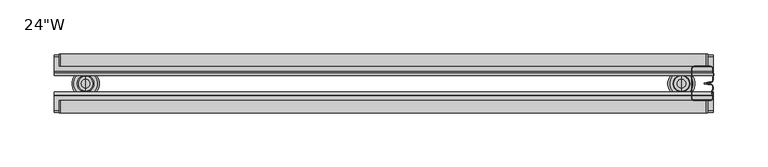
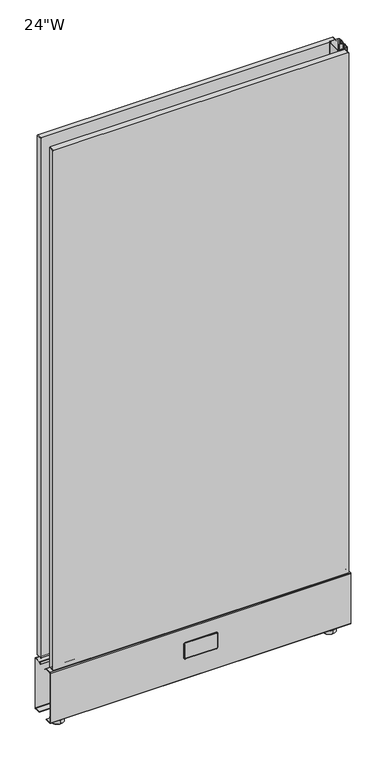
"""IFC4 building model written with IfcOpenShell, lengths in millimetres: furniture geometry."""

from ifc_helpers import new_model, si_unit, point, frame, frame_2d, origin, place, context, project, spatial, polyline, circle_curve, trimmed, segment, composite_curve, outline, extrude, source, transform, mapped, element, save
from ifc_brep_helpers import plane_surface, cylinder_surface, revolved_surface, advanced_brep


def furniture_87b25547(model_context):
    return source(origin(), model_context, "Body", "SolidModel", [
        extrude(outline(composite_curve([segment(trimmed(circle_curve(frame_2d((133.8403843, 603.5740343)), 1.2634657), [point((132.5769186, 603.5740343))], [point((133.8403843, 604.8375))], False, "CARTESIAN"), True, "CONTINUOUS"), segment(polyline([(133.8403843, 604.8375), (1245.2602242, 604.8375)]), True, "CONTINUOUS"), segment(trimmed(circle_curve(frame_2d((1245.2602242, 602.9941949)), 1.8433051), [point((1245.2602242, 604.8375))], [point((1247.1035294, 602.9941949))], False, "CARTESIAN"), True, "CONTINUOUS"), segment(polyline([(1247.1035294, 602.9941949), (1247.1035294, 6.3370556)]), True, "CONTINUOUS"), segment(trimmed(circle_curve(frame_2d((1245.4908737, 6.3370556)), 1.6126556), [point((1247.1035294, 6.3370556))], [point((1245.4908737, 4.7243999))], False, "CARTESIAN"), True, "CONTINUOUS"), segment(polyline([(1245.4908737, 4.7243999), (134.0795596, 4.7243999)]), True, "CONTINUOUS"), segment(trimmed(circle_curve(frame_2d((134.0795596, 6.227041)), 1.5026411), [point((134.0795596, 4.7243999))], [point((132.5769186, 6.227041))], False, "CARTESIAN"), True, "CONTINUOUS"), segment(polyline([(132.5769186, 6.227041), (132.5769186, 603.5740343)]), True, "CONTINUOUS")], self_intersect=False)), frame((0.0, 44.4550341, 0.0), z_axis=(0.0, 1.0, 0.0), x_axis=(0.0, 0.0, 1.0)), (0.0, 0.0, 1.0), 11.5108241),
        extrude(outline(composite_curve([segment(trimmed(circle_curve(frame_2d((133.8403843, 603.5740343)), 1.2634657), [point((132.5769186, 603.5740343))], [point((133.8403843, 604.8375))], False, "CARTESIAN"), True, "CONTINUOUS"), segment(polyline([(133.8403843, 604.8375), (1245.2602242, 604.8375)]), True, "CONTINUOUS"), segment(trimmed(circle_curve(frame_2d((1245.2602242, 602.9941949)), 1.8433051), [point((1245.2602242, 604.8375))], [point((1247.1035294, 602.9941949))], False, "CARTESIAN"), True, "CONTINUOUS"), segment(polyline([(1247.1035294, 602.9941949), (1247.1035294, 6.3370556)]), True, "CONTINUOUS"), segment(trimmed(circle_curve(frame_2d((1245.4908737, 6.3370556)), 1.6126556), [point((1247.1035294, 6.3370556))], [point((1245.4908737, 4.7243999))], False, "CARTESIAN"), True, "CONTINUOUS"), segment(polyline([(1245.4908737, 4.7243999), (134.0795596, 4.7243999)]), True, "CONTINUOUS"), segment(trimmed(circle_curve(frame_2d((134.0795596, 6.227041)), 1.5026411), [point((134.0795596, 4.7243999))], [point((132.5769186, 6.227041))], False, "CARTESIAN"), True, "CONTINUOUS"), segment(polyline([(132.5769186, 6.227041), (132.5769186, 603.5740343)]), True, "CONTINUOUS")], self_intersect=False)), frame((0.0, 1.3335, 0.0), z_axis=(0.0, 1.0, 0.0), x_axis=(0.0, 0.0, 1.0)), (0.0, 0.0, 1.0), 11.5108241),
        extrude(outline(composite_curve([segment(trimmed(circle_curve(frame_2d((94.8528373, 273.6849691)), 3.175), [point((98.0278373, 273.6849691))], [point((94.8528373, 270.5099691))], False, "CARTESIAN"), True, "CONTINUOUS"), segment(polyline([(94.8528373, 270.5099691), (66.2778343, 270.5099691)]), True, "CONTINUOUS"), segment(trimmed(circle_curve(frame_2d((66.2778343, 273.6849691)), 3.175), [point((66.2778343, 270.5099691))], [point((63.1028343, 273.6849691))], False, "CARTESIAN"), True, "CONTINUOUS"), segment(polyline([(63.1028343, 273.6849691), (63.1028343, 335.9149945)]), True, "CONTINUOUS"), segment(trimmed(circle_curve(frame_2d((66.2778343, 335.9149945)), 3.175), [point((63.1028343, 335.9149945))], [point((66.2778343, 339.0899945))], False, "CARTESIAN"), True, "CONTINUOUS"), segment(polyline([(66.2778343, 339.0899945), (94.8528373, 339.0899945)]), True, "CONTINUOUS"), segment(trimmed(circle_curve(frame_2d((94.8528373, 335.9149945)), 3.175), [point((94.8528373, 339.0899945))], [point((98.0278373, 335.9149945))], False, "CARTESIAN"), True, "CONTINUOUS"), segment(polyline([(98.0278373, 335.9149945), (98.0278373, 273.6849691)]), True, "CONTINUOUS")], self_intersect=False), holes=[composite_curve([segment(trimmed(circle_curve(frame_2d((66.2778343, 335.9149945)), 2.38125), [point((66.2778343, 338.2962445))], [point((63.8965843, 335.9149945))], True, "CARTESIAN"), True, "CONTINUOUS"), segment(polyline([(63.8965843, 335.9149945), (63.8965843, 273.6849691)]), True, "CONTINUOUS"), segment(trimmed(circle_curve(frame_2d((66.2778343, 273.6849691)), 2.38125), [point((63.8965843, 273.6849691))], [point((66.2778343, 271.3037191))], True, "CARTESIAN"), True, "CONTINUOUS"), segment(polyline([(66.2778343, 271.3037191), (94.8528373, 271.3037191)]), True, "CONTINUOUS"), segment(trimmed(circle_curve(frame_2d((94.8528373, 273.6849691)), 2.38125), [point((94.8528373, 271.3037191))], [point((97.2340873, 273.6849691))], True, "CARTESIAN"), True, "CONTINUOUS"), segment(polyline([(97.2340873, 273.6849691), (97.2340873, 335.9149945)]), True, "CONTINUOUS"), segment(trimmed(circle_curve(frame_2d((94.8528373, 335.9149945)), 2.38125), [point((97.2340873, 335.9149945))], [point((94.8528373, 338.2962445))], True, "CARTESIAN"), True, "CONTINUOUS"), segment(polyline([(94.8528373, 338.2962445), (66.2778343, 338.2962445)]), True, "CONTINUOUS")], self_intersect=False)]), frame((0.0, 55.054502, 0.0), z_axis=(0.0, 1.0, 0.0), x_axis=(0.0, 0.0, 1.0)), (0.0, 0.0, 1.0), 0.79375),
        extrude(outline(composite_curve([segment(trimmed(circle_curve(frame_2d((94.8528373, 335.9149945)), 1.984375), [point((94.8528373, 337.8993695))], [point((96.8372123, 335.9149945))], False, "CARTESIAN"), True, "CONTINUOUS"), segment(polyline([(96.8372123, 335.9149945), (96.8372123, 273.6849691)]), True, "CONTINUOUS"), segment(trimmed(circle_curve(frame_2d((94.8528373, 273.6849691)), 1.984375), [point((96.8372123, 273.6849691))], [point((94.8528373, 271.7005941))], False, "CARTESIAN"), True, "CONTINUOUS"), segment(polyline([(94.8528373, 271.7005941), (66.2778343, 271.7005941)]), True, "CONTINUOUS"), segment(trimmed(circle_curve(frame_2d((66.2778343, 273.6849691)), 1.984375), [point((66.2778343, 271.7005941))], [point((64.2934593, 273.6849691))], False, "CARTESIAN"), True, "CONTINUOUS"), segment(polyline([(64.2934593, 273.6849691), (64.2934593, 335.9149945)]), True, "CONTINUOUS"), segment(trimmed(circle_curve(frame_2d((66.2778343, 335.9149945)), 1.984375), [point((64.2934593, 335.9149945))], [point((66.2778343, 337.8993695))], False, "CARTESIAN"), True, "CONTINUOUS"), segment(polyline([(66.2778343, 337.8993695), (94.8528373, 337.8993695)]), True, "CONTINUOUS")], self_intersect=False)), frame((0.0, 55.054502, 0.0), z_axis=(0.0, 1.0, 0.0), x_axis=(0.0, 0.0, 1.0)), (0.0, 0.0, 1.0), 0.79375),
        extrude(outline(composite_curve([segment(trimmed(circle_curve(frame_2d((94.8528373, 273.6849691)), 3.175), [point((98.0278373, 273.6849691))], [point((94.8528373, 270.5099691))], False, "CARTESIAN"), True, "CONTINUOUS"), segment(polyline([(94.8528373, 270.5099691), (66.2778343, 270.5099691)]), True, "CONTINUOUS"), segment(trimmed(circle_curve(frame_2d((66.2778343, 273.6849691)), 3.175), [point((66.2778343, 270.5099691))], [point((63.1028343, 273.6849691))], False, "CARTESIAN"), True, "CONTINUOUS"), segment(polyline([(63.1028343, 273.6849691), (63.1028343, 335.9149945)]), True, "CONTINUOUS"), segment(trimmed(circle_curve(frame_2d((66.2778343, 335.9149945)), 3.175), [point((63.1028343, 335.9149945))], [point((66.2778343, 339.0899945))], False, "CARTESIAN"), True, "CONTINUOUS"), segment(polyline([(66.2778343, 339.0899945), (94.8528373, 339.0899945)]), True, "CONTINUOUS"), segment(trimmed(circle_curve(frame_2d((94.8528373, 335.9149945)), 3.175), [point((94.8528373, 339.0899945))], [point((98.0278373, 335.9149945))], False, "CARTESIAN"), True, "CONTINUOUS"), segment(polyline([(98.0278373, 335.9149945), (98.0278373, 273.6849691)]), True, "CONTINUOUS")], self_intersect=False), holes=[composite_curve([segment(trimmed(circle_curve(frame_2d((66.2778343, 335.9149945)), 2.38125), [point((66.2778343, 338.2962445))], [point((63.8965843, 335.9149945))], True, "CARTESIAN"), True, "CONTINUOUS"), segment(polyline([(63.8965843, 335.9149945), (63.8965843, 273.6849691)]), True, "CONTINUOUS"), segment(trimmed(circle_curve(frame_2d((66.2778343, 273.6849691)), 2.38125), [point((63.8965843, 273.6849691))], [point((66.2778343, 271.3037191))], True, "CARTESIAN"), True, "CONTINUOUS"), segment(polyline([(66.2778343, 271.3037191), (94.8528373, 271.3037191)]), True, "CONTINUOUS"), segment(trimmed(circle_curve(frame_2d((94.8528373, 273.6849691)), 2.38125), [point((94.8528373, 271.3037191))], [point((97.2340873, 273.6849691))], True, "CARTESIAN"), True, "CONTINUOUS"), segment(polyline([(97.2340873, 273.6849691), (97.2340873, 335.9149945)]), True, "CONTINUOUS"), segment(trimmed(circle_curve(frame_2d((94.8528373, 335.9149945)), 2.38125), [point((97.2340873, 335.9149945))], [point((94.8528373, 338.2962445))], True, "CARTESIAN"), True, "CONTINUOUS"), segment(polyline([(94.8528373, 338.2962445), (66.2778343, 338.2962445)]), True, "CONTINUOUS")], self_intersect=False)]), frame((0.0, 1.2954, 0.0), z_axis=(0.0, 1.0, 0.0), x_axis=(0.0, 0.0, 1.0)), (0.0, 0.0, 1.0), 0.79375),
        extrude(outline(composite_curve([segment(trimmed(circle_curve(frame_2d((94.8528373, 335.9149945)), 1.984375), [point((94.8528373, 337.8993695))], [point((96.8372123, 335.9149945))], False, "CARTESIAN"), True, "CONTINUOUS"), segment(polyline([(96.8372123, 335.9149945), (96.8372123, 273.6849691)]), True, "CONTINUOUS"), segment(trimmed(circle_curve(frame_2d((94.8528373, 273.6849691)), 1.984375), [point((96.8372123, 273.6849691))], [point((94.8528373, 271.7005941))], False, "CARTESIAN"), True, "CONTINUOUS"), segment(polyline([(94.8528373, 271.7005941), (66.2778343, 271.7005941)]), True, "CONTINUOUS"), segment(trimmed(circle_curve(frame_2d((66.2778343, 273.6849691)), 1.984375), [point((66.2778343, 271.7005941))], [point((64.2934593, 273.6849691))], False, "CARTESIAN"), True, "CONTINUOUS"), segment(polyline([(64.2934593, 273.6849691), (64.2934593, 335.9149945)]), True, "CONTINUOUS"), segment(trimmed(circle_curve(frame_2d((66.2778343, 335.9149945)), 1.984375), [point((64.2934593, 335.9149945))], [point((66.2778343, 337.8993695))], False, "CARTESIAN"), True, "CONTINUOUS"), segment(polyline([(66.2778343, 337.8993695), (94.8528373, 337.8993695)]), True, "CONTINUOUS")], self_intersect=False)), frame((0.0, 1.2954, 0.0), z_axis=(0.0, 1.0, 0.0), x_axis=(0.0, 0.0, 1.0)), (0.0, 0.0, 1.0), 0.79375),
        advanced_brep(
        [(580.3900097, 41.1455956, 7.9264178), (580.3900097, 16.0044044, 7.9264178), (580.3900097, 17.5919044, 9.5139178), (580.3900097, 39.5580956, 9.5139178), (580.3900097, 41.1455956, 0.79375), (580.3900097, 16.0044044, 0.79375), (580.3900097, 40.3518456, 0.0), (580.3900097, 16.7981544, 0.0), (580.3900097, 28.575, 0.0), (580.3900097, 35.6235001, 11.2919173), (580.3900097, 21.5264999, 11.2919173), (580.3900097, 24.6038476, 11.2919173), (580.3900097, 32.5461524, 11.2919173), (580.3900097, 36.2584995, 10.6569179), (580.3900097, 20.8915005, 10.6569179), (580.3900097, 36.2584995, 9.5139178), (580.3900097, 20.8915005, 9.5139178), (580.3900097, 32.5461524, 27.1248686), (580.3900097, 24.6038476, 27.1248686), (580.3900097, 28.575, 27.1248686)],
        [
            (0, 1, circle_curve(frame((580.3900097, 28.575, 7.9264178), z_axis=(0.0, 0.0, 1.0), x_axis=(0.0, -1.0, 0.0)), 12.5705956)),
            (1, 2),
            (2, 3, circle_curve(frame((580.3900097, 28.575, 9.5139178), z_axis=(0.0, 0.0, -1.0), x_axis=(0.0, -1.0, 0.0)), 10.9830956)),
            (3, 0),
            (1, 0, circle_curve(frame((580.3900097, 28.575, 7.9264178), z_axis=(0.0, 0.0, 1.0), x_axis=(0.0, -1.0, 0.0)), 12.5705956)),
            (3, 2, circle_curve(frame((580.3900097, 28.575, 9.5139178), z_axis=(0.0, 0.0, -1.0), x_axis=(0.0, -1.0, 0.0)), 10.9830956)),
            (4, 5, circle_curve(frame((580.3900097, 28.575, 0.79375), z_axis=(0.0, 0.0, 1.0), x_axis=(0.0, -1.0, 0.0)), 12.5705956)),
            (5, 1),
            (0, 4),
            (5, 4, circle_curve(frame((580.3900097, 28.575, 0.79375), z_axis=(0.0, 0.0, 1.0), x_axis=(0.0, -1.0, 0.0)), 12.5705956)),
            (6, 7, circle_curve(frame((580.3900097, 28.575, 0.0), z_axis=(0.0, 0.0, 1.0), x_axis=(0.0, -1.0, 0.0)), 11.7768456)),
            (7, 5),
            (4, 6),
            (7, 6, circle_curve(frame((580.3900097, 28.575, 0.0), z_axis=(0.0, 0.0, 1.0), x_axis=(0.0, -1.0, 0.0)), 11.7768456)),
            (8, 7),
            (6, 8),
            (9, 10, circle_curve(frame((580.3900097, 28.575, 11.2919173), z_axis=(0.0, 0.0, 1.0), x_axis=(0.0, -1.0, 0.0)), 7.0485001)),
            (10, 11),
            (11, 12, circle_curve(frame((580.3900097, 28.575, 11.2919173), z_axis=(0.0, 0.0, -1.0), x_axis=(0.0, -1.0, 0.0)), 3.9711524)),
            (12, 9),
            (10, 9, circle_curve(frame((580.3900097, 28.575, 11.2919173), z_axis=(0.0, 0.0, 1.0), x_axis=(0.0, -1.0, 0.0)), 7.0485001)),
            (12, 11, circle_curve(frame((580.3900097, 28.575, 11.2919173), z_axis=(0.0, 0.0, -1.0), x_axis=(0.0, -1.0, 0.0)), 3.9711524)),
            (13, 14, circle_curve(frame((580.3900097, 28.575, 10.6569179), z_axis=(0.0, 0.0, 1.0), x_axis=(0.0, -1.0, 0.0)), 7.6834995)),
            (14, 10),
            (9, 13),
            (14, 13, circle_curve(frame((580.3900097, 28.575, 10.6569179), z_axis=(0.0, 0.0, 1.0), x_axis=(0.0, -1.0, 0.0)), 7.6834995)),
            (15, 16, circle_curve(frame((580.3900097, 28.575, 9.5139178), z_axis=(0.0, 0.0, 1.0), x_axis=(0.0, -1.0, 0.0)), 7.6834995)),
            (16, 14),
            (13, 15),
            (16, 15, circle_curve(frame((580.3900097, 28.575, 9.5139178), z_axis=(0.0, 0.0, 1.0), x_axis=(0.0, -1.0, 0.0)), 7.6834995)),
            (2, 16),
            (15, 3),
            (17, 18, circle_curve(frame((580.3900097, 28.575, 27.1248686), z_axis=(0.0, 0.0, 1.0), x_axis=(0.0, -1.0, 0.0)), 3.9711524)),
            (18, 19),
            (19, 17),
            (18, 17, circle_curve(frame((580.3900097, 28.575, 27.1248686), z_axis=(0.0, 0.0, 1.0), x_axis=(0.0, -1.0, 0.0)), 3.9711524)),
            (11, 18),
            (17, 12),
        ],
        [
            revolved_surface(polyline([(580.3900097, 17.5919044, 9.5139178), (580.3900097, 16.0044044, 7.9264178)]), (580.3900097, 28.575, 0.0), (0.0, 0.0, -1.0)),
            cylinder_surface(frame((580.3900097, 28.575, 0.0), z_axis=(0.0, 0.0, -1.0), x_axis=(0.0, -1.0, 0.0)), 12.5705956),
            revolved_surface(polyline([(580.3900097, 16.0044044, 0.79375), (580.3900097, 16.7981544, 0.0)]), (580.3900097, 28.575, 0.0), (0.0, 0.0, -1.0)),
            plane_surface(frame((580.3900097, 28.575, 0.0), z_axis=(0.0, 0.0, -1.0), x_axis=(0.0, -1.0, 0.0))),
            plane_surface(frame((580.3900097, 28.575, 11.2919173), z_axis=(0.0, 0.0, 1.0), x_axis=(0.0, -1.0, 0.0))),
            revolved_surface(polyline([(580.3900097, 21.5264999, 11.2919173), (580.3900097, 20.8915005, 10.6569179)]), (580.3900097, 28.575, 0.0), (0.0, 0.0, -1.0)),
            cylinder_surface(frame((580.3900097, 28.575, 0.0), z_axis=(0.0, 0.0, -1.0), x_axis=(0.0, -1.0, 0.0)), 7.6834995),
            plane_surface(frame((580.3900097, 28.575, 9.5139178), z_axis=(0.0, 0.0, 1.0), x_axis=(0.0, -1.0, 0.0))),
            plane_surface(frame((580.3900097, 28.575, 27.1248686), z_axis=(0.0, 0.0, 1.0), x_axis=(0.0, -1.0, 0.0))),
            cylinder_surface(frame((580.3900097, 28.575, 0.0), z_axis=(0.0, 0.0, -1.0), x_axis=(0.0, -1.0, 0.0)), 3.9711524),
        ],
        [
            (0, [[1, 2, 3, 4]]),
            (0, [[5, -4, 6, -2]]),
            (1, [[7, 8, -1, 9]]),
            (1, [[10, -9, -5, -8]]),
            (2, [[11, 12, -7, 13]]),
            (2, [[14, -13, -10, -12]]),
            (3, [[15, -11, 16]]),
            (3, [[-16, -14, -15]]),
            (4, [[17, 18, 19, 20]]),
            (4, [[21, -20, 22, -18]]),
            (5, [[23, 24, -17, 25]]),
            (5, [[26, -25, -21, -24]]),
            (6, [[27, 28, -23, 29]]),
            (6, [[30, -29, -26, -28]]),
            (7, [[-3, 31, -27, 32]]),
            (7, [[-6, -32, -30, -31]]),
            (8, [[33, 34, 35]]),
            (8, [[36, -35, -34]]),
            (9, [[-19, 37, -33, 38]]),
            (9, [[-22, -38, -36, -37]]),
        ],
    ),
        advanced_brep(
        [(29.2099994, 36.2584995, 9.5139178), (29.2099994, 20.8915005, 9.5139178), (29.2099994, 17.5919044, 9.5139178), (29.2099994, 39.5580956, 9.5139178), (29.2099994, 36.2584995, 10.6569179), (29.2099994, 20.8915005, 10.6569179), (29.2099994, 35.6235001, 11.2919173), (29.2099994, 21.5264999, 11.2919173), (29.2099994, 32.5461524, 11.2919173), (29.2099994, 24.6038476, 11.2919173), (29.2099994, 40.3518456, 0.0), (29.2099994, 16.7981544, 0.0), (29.2099994, 28.575, 0.0), (29.2099994, 41.1455956, 0.79375), (29.2099994, 16.0044044, 0.79375), (29.2099994, 41.1455956, 7.9264178), (29.2099994, 16.0044044, 7.9264178), (29.2099994, 32.5461524, 27.1248686), (29.2099994, 24.6038476, 27.1248686), (29.2099994, 28.575, 27.1248686)],
        [
            (0, 1, circle_curve(frame((29.2099994, 28.575, 9.5139178), z_axis=(0.0, 0.0, -1.0), x_axis=(0.0, -1.0, 0.0)), 7.6834995)),
            (1, 2),
            (2, 3, circle_curve(frame((29.2099994, 28.575, 9.5139178), z_axis=(0.0, 0.0, 1.0), x_axis=(0.0, -1.0, 0.0)), 10.9830956)),
            (3, 0),
            (1, 0, circle_curve(frame((29.2099994, 28.575, 9.5139178), z_axis=(0.0, 0.0, -1.0), x_axis=(0.0, -1.0, 0.0)), 7.6834995)),
            (3, 2, circle_curve(frame((29.2099994, 28.575, 9.5139178), z_axis=(0.0, 0.0, 1.0), x_axis=(0.0, -1.0, 0.0)), 10.9830956)),
            (4, 5, circle_curve(frame((29.2099994, 28.575, 10.6569179), z_axis=(0.0, 0.0, -1.0), x_axis=(0.0, -1.0, 0.0)), 7.6834995)),
            (5, 1),
            (0, 4),
            (5, 4, circle_curve(frame((29.2099994, 28.575, 10.6569179), z_axis=(0.0, 0.0, -1.0), x_axis=(0.0, -1.0, 0.0)), 7.6834995)),
            (6, 7, circle_curve(frame((29.2099994, 28.575, 11.2919173), z_axis=(0.0, 0.0, -1.0), x_axis=(0.0, -1.0, 0.0)), 7.0485001)),
            (7, 5),
            (4, 6),
            (7, 6, circle_curve(frame((29.2099994, 28.575, 11.2919173), z_axis=(0.0, 0.0, -1.0), x_axis=(0.0, -1.0, 0.0)), 7.0485001)),
            (8, 9, circle_curve(frame((29.2099994, 28.575, 11.2919173), z_axis=(0.0, 0.0, -1.0), x_axis=(0.0, -1.0, 0.0)), 3.9711524)),
            (9, 7),
            (6, 8),
            (9, 8, circle_curve(frame((29.2099994, 28.575, 11.2919173), z_axis=(0.0, 0.0, -1.0), x_axis=(0.0, -1.0, 0.0)), 3.9711524)),
            (10, 11, circle_curve(frame((29.2099994, 28.575, 0.0), z_axis=(0.0, 0.0, -1.0), x_axis=(0.0, -1.0, 0.0)), 11.7768456)),
            (11, 12),
            (12, 10),
            (11, 10, circle_curve(frame((29.2099994, 28.575, 0.0), z_axis=(0.0, 0.0, -1.0), x_axis=(0.0, -1.0, 0.0)), 11.7768456)),
            (13, 14, circle_curve(frame((29.2099994, 28.575, 0.79375), z_axis=(0.0, 0.0, -1.0), x_axis=(0.0, -1.0, 0.0)), 12.5705956)),
            (14, 11),
            (10, 13),
            (14, 13, circle_curve(frame((29.2099994, 28.575, 0.79375), z_axis=(0.0, 0.0, -1.0), x_axis=(0.0, -1.0, 0.0)), 12.5705956)),
            (15, 16, circle_curve(frame((29.2099994, 28.575, 7.9264178), z_axis=(0.0, 0.0, -1.0), x_axis=(0.0, -1.0, 0.0)), 12.5705956)),
            (16, 14),
            (13, 15),
            (16, 15, circle_curve(frame((29.2099994, 28.575, 7.9264178), z_axis=(0.0, 0.0, -1.0), x_axis=(0.0, -1.0, 0.0)), 12.5705956)),
            (2, 16),
            (15, 3),
            (17, 18, circle_curve(frame((29.2099994, 28.575, 27.1248686), z_axis=(0.0, 0.0, -1.0), x_axis=(0.0, -1.0, 0.0)), 3.9711524)),
            (18, 9),
            (8, 17),
            (18, 17, circle_curve(frame((29.2099994, 28.575, 27.1248686), z_axis=(0.0, 0.0, -1.0), x_axis=(0.0, -1.0, 0.0)), 3.9711524)),
            (19, 18),
            (17, 19),
        ],
        [
            plane_surface(frame((29.2099994, 28.575, 9.5139178), z_axis=(0.0, 0.0, 1.0), x_axis=(0.0, -1.0, 0.0))),
            cylinder_surface(frame((29.2099994, 28.575, 44.45), z_axis=(0.0, 0.0, 1.0), x_axis=(0.0, -1.0, 0.0)), 7.6834995),
            revolved_surface(polyline([(29.2099994, 20.8915005, 10.6569179), (29.2099994, 21.5264999, 11.2919173)]), (29.2099994, 28.575, 44.45), (0.0, 0.0, 1.0)),
            plane_surface(frame((29.2099994, 28.575, 11.2919173), z_axis=(0.0, 0.0, 1.0), x_axis=(0.0, -1.0, 0.0))),
            plane_surface(frame((29.2099994, 28.575, 0.0), z_axis=(0.0, 0.0, -1.0), x_axis=(0.0, -1.0, 0.0))),
            revolved_surface(polyline([(29.2099994, 16.7981544, 0.0), (29.2099994, 16.0044044, 0.79375)]), (29.2099994, 28.575, 44.45), (0.0, 0.0, 1.0)),
            cylinder_surface(frame((29.2099994, 28.575, 44.45), z_axis=(0.0, 0.0, 1.0), x_axis=(0.0, -1.0, 0.0)), 12.5705956),
            revolved_surface(polyline([(29.2099994, 16.0044044, 7.9264178), (29.2099994, 17.5919044, 9.5139178)]), (29.2099994, 28.575, 44.45), (0.0, 0.0, 1.0)),
            cylinder_surface(frame((29.2099994, 28.575, 44.45), z_axis=(0.0, 0.0, 1.0), x_axis=(0.0, -1.0, 0.0)), 3.9711524),
            plane_surface(frame((29.2099994, 28.575, 27.1248686), z_axis=(0.0, 0.0, 1.0), x_axis=(0.0, -1.0, 0.0))),
        ],
        [
            (0, [[1, 2, 3, 4]]),
            (0, [[5, -4, 6, -2]]),
            (1, [[7, 8, -1, 9]]),
            (1, [[10, -9, -5, -8]]),
            (2, [[11, 12, -7, 13]]),
            (2, [[14, -13, -10, -12]]),
            (3, [[15, 16, -11, 17]]),
            (3, [[18, -17, -14, -16]]),
            (4, [[19, 20, 21]]),
            (4, [[22, -21, -20]]),
            (5, [[23, 24, -19, 25]]),
            (5, [[26, -25, -22, -24]]),
            (6, [[27, 28, -23, 29]]),
            (6, [[30, -29, -26, -28]]),
            (7, [[-3, 31, -27, 32]]),
            (7, [[-6, -32, -30, -31]]),
            (8, [[33, 34, -15, 35]]),
            (8, [[36, -35, -18, -34]]),
            (9, [[37, -33, 38]]),
            (9, [[-38, -36, -37]]),
        ],
    ),
        extrude(outline(composite_curve([segment(trimmed(circle_curve(frame_2d((3.67665, 127.0651214)), 1.5875), [point((2.08915, 127.0651214))], [point((3.67665, 128.6526214))], False, "CARTESIAN"), True, "CONTINUOUS"), segment(polyline([(3.67665, 128.6526214), (16.9557654, 128.6526214)]), True, "CONTINUOUS"), segment(trimmed(circle_curve(frame_2d((16.9557654, 127.0537817)), 1.5988397), [point((16.9557654, 128.6526214))], [point((18.1058757, 128.1644277))], False, "CARTESIAN"), True, "CONTINUOUS"), segment(polyline([(18.1058757, 128.1644277), (20.8470642, 125.3258372), (20.2857127, 124.7644857), (17.7656046, 127.3741402)]), True, "CONTINUOUS"), segment(trimmed(circle_curve(frame_2d((16.6236514, 126.2713714)), 1.5875), [point((17.7656046, 127.3741402))], [point((16.6236514, 127.8588714))], True, "CARTESIAN"), True, "CONTINUOUS"), segment(polyline([(16.6236514, 127.8588714), (3.67665, 127.8588714)]), True, "CONTINUOUS"), segment(trimmed(circle_curve(frame_2d((3.67665, 127.0651214)), 0.79375), [point((3.67665, 127.8588714))], [point((2.8829, 127.0651214))], True, "CARTESIAN"), True, "CONTINUOUS"), segment(polyline([(2.8829, 127.0651214), (2.8829, 21.128067)]), True, "CONTINUOUS"), segment(trimmed(circle_curve(frame_2d((3.67665, 21.128067)), 0.79375), [point((2.8829, 21.128067))], [point((3.67665, 20.334317))], True, "CARTESIAN"), True, "CONTINUOUS"), segment(polyline([(3.67665, 20.334317), (16.0826734, 20.334317), (16.0826734, 19.540567), (3.67665, 19.540567)]), True, "CONTINUOUS"), segment(trimmed(circle_curve(frame_2d((3.67665, 21.128067)), 1.5875), [point((3.67665, 19.540567))], [point((2.08915, 21.128067))], False, "CARTESIAN"), True, "CONTINUOUS"), segment(polyline([(2.08915, 21.128067), (2.08915, 127.0651214)]), True, "CONTINUOUS")], self_intersect=False)), frame((0.0, 0.0, 0.0), z_axis=(1.0, 0.0, 0.0), x_axis=(0.0, 1.0, 0.0)), (0.0, 0.0, 1.0), 609.6),
        extrude(outline(composite_curve([segment(polyline([(55.054502, 127.8488945), (55.054502, 21.9118401)]), True, "CONTINUOUS"), segment(trimmed(circle_curve(frame_2d((53.467002, 21.9118401)), 1.5875), [point((55.054502, 21.9118401))], [point((53.467002, 20.3243401))], False, "CARTESIAN"), True, "CONTINUOUS"), segment(polyline([(53.467002, 20.3243401), (41.0609786, 20.3243401), (41.0609786, 21.1180901), (53.467002, 21.1180901)]), True, "CONTINUOUS"), segment(trimmed(circle_curve(frame_2d((53.467002, 21.9118401)), 0.79375), [point((53.467002, 21.1180901))], [point((54.260752, 21.9118401))], True, "CARTESIAN"), True, "CONTINUOUS"), segment(polyline([(54.260752, 21.9118401), (54.260752, 127.8488945)]), True, "CONTINUOUS"), segment(trimmed(circle_curve(frame_2d((53.467002, 127.8488945)), 0.79375), [point((54.260752, 127.8488945))], [point((53.467002, 128.6426445))], True, "CARTESIAN"), True, "CONTINUOUS"), segment(polyline([(53.467002, 128.6426445), (40.5200006, 128.6426445)]), True, "CONTINUOUS"), segment(trimmed(circle_curve(frame_2d((40.5200006, 127.0551445)), 1.5875), [point((40.5200006, 128.6426445))], [point((39.3780474, 128.1579133))], True, "CARTESIAN"), True, "CONTINUOUS"), segment(polyline([(39.3780474, 128.1579133), (36.8579393, 125.5482588), (36.2965878, 126.1096103), (39.0377763, 128.9482008)]), True, "CONTINUOUS"), segment(trimmed(circle_curve(frame_2d((40.1878866, 127.8375548)), 1.5988397), [point((39.0377763, 128.9482008))], [point((40.1878866, 129.4363945))], False, "CARTESIAN"), True, "CONTINUOUS"), segment(polyline([(40.1878866, 129.4363945), (53.467002, 129.4363945)]), True, "CONTINUOUS"), segment(trimmed(circle_curve(frame_2d((53.467002, 127.8488945)), 1.5875), [point((53.467002, 129.4363945))], [point((55.054502, 127.8488945))], False, "CARTESIAN"), True, "CONTINUOUS")], self_intersect=False)), frame((0.0, 0.0, 0.0), z_axis=(1.0, 0.0, 0.0), x_axis=(0.0, 1.0, 0.0)), (0.0, 0.0, 1.0), 609.6),
        advanced_brep(
        [(592.1446565, 44.4550341, 1249.3625), (589.7634065, 42.0737841, 1249.3625), (589.7634065, 15.1039609, 1249.3625), (592.1623315, 12.705036, 1249.3625), (607.1370057, 12.705036, 1249.3625), (609.5754058, 15.1039609, 1249.3625), (609.5754058, 17.9274722, 1249.3625), (609.6, 22.7944174, 1249.3625), (609.6, 25.4623045, 1249.3625), (607.6169242, 27.8193313, 1249.3625), (603.1844003, 28.5888725, 1249.3625), (607.6169242, 29.3584138, 1249.3625), (609.6, 31.7154405, 1249.3625), (609.6, 34.4414889, 1249.3625), (609.5754058, 39.2502728, 1249.3625), (609.5754058, 42.0737841, 1249.3625), (607.1941558, 44.4550341, 1249.3625), (608.7816558, 17.6524355, 1249.3625), (608.7816558, 15.1039609, 1249.3625), (607.1941558, 13.5164609, 1249.3625), (592.1623315, 13.498786, 1249.3625), (590.5571565, 15.1039609, 1249.3625), (590.5571565, 42.0737841, 1249.3625), (592.1446565, 43.6612841, 1249.3625), (607.1941558, 43.6612841, 1249.3625), (608.7816558, 42.0737841, 1249.3625), (608.7816558, 38.9396594, 1249.3625), (608.80625, 34.7471082, 1249.3625), (608.80625, 31.7154405, 1249.3625), (607.4811503, 30.1404652, 1249.3625), (600.8642223, 28.9916843, 1249.3625), (600.8642223, 28.1860608, 1249.3625), (607.4811503, 27.0372798, 1249.3625), (608.80625, 25.4623045, 1249.3625), (608.80625, 23.0737131, 1249.3625), (592.1446565, 44.4550341, 130.175), (607.1941558, 44.4550341, 130.175), (609.5754058, 42.0737841, 130.175), (609.5754058, 39.2502728, 130.175), (609.6, 34.4414889, 130.175), (609.6, 31.7154405, 130.175), (607.6169242, 29.3584137, 130.175), (603.1844003, 28.5888725, 130.175), (607.6169242, 27.8193313, 130.175), (609.6, 25.4623045, 130.175), (609.6, 22.7944174, 130.175), (609.5754058, 17.9274722, 130.175), (609.5754058, 15.1039609, 130.175), (607.1941558, 12.7227109, 130.175), (592.1623315, 12.705036, 130.175), (589.7634065, 15.1039609, 130.175), (589.7634065, 42.0737841, 130.175), (608.7816558, 17.6524355, 130.175), (608.80625, 23.0737131, 130.175), (608.80625, 25.4623045, 130.175), (607.4811503, 27.0372798, 130.175), (600.8642223, 28.1860608, 130.175), (600.8642223, 28.9916843, 130.175), (607.4811503, 30.1404653, 130.175), (608.80625, 31.7154405, 130.175), (608.80625, 34.7471082, 130.175), (608.7816558, 38.9396594, 130.175), (608.7816558, 42.0737841, 130.175), (607.1941558, 43.6612841, 130.175), (592.1446565, 43.6612841, 130.175), (590.5571565, 42.0737841, 130.175), (590.5571565, 15.1039609, 130.175), (592.1623315, 13.498786, 130.175), (607.1370057, 13.498786, 130.175), (608.7816558, 15.1039609, 130.175)],
        [
            (0, 1, circle_curve(frame((592.1446565, 42.0737841, 1249.3625), z_axis=(0.0, 0.0, 1.0), x_axis=(-1.0, 0.0, 0.0)), 2.38125)),
            (1, 2),
            (2, 3, circle_curve(frame((592.1623315, 15.1039609, 1249.3625), z_axis=(0.0, 0.0, 1.0), x_axis=(-1.0, 0.0, 0.0)), 2.398925)),
            (3, 4),
            (4, 5, circle_curve(frame((607.1941558, 15.1039609, 1249.3625), z_axis=(0.0, 0.0, 1.0), x_axis=(-1.0, 0.0, 0.0)), 2.38125)),
            (5, 6),
            (6, 7, circle_curve(frame((612.4354169, 20.3465544, 1249.3625), z_axis=(0.0, 0.0, -1.0), x_axis=(-1.0, 0.0, 0.0)), 3.7458807)),
            (7, 8),
            (8, 9, circle_curve(frame((607.207715, 25.4623045, 1249.3625), z_axis=(0.0, 0.0, 1.0), x_axis=(-1.0, 0.0, 0.0)), 2.392285)),
            (9, 10),
            (10, 11),
            (11, 12, circle_curve(frame((607.207715, 31.7154405, 1249.3625), z_axis=(0.0, 0.0, 1.0), x_axis=(-1.0, 0.0, 0.0)), 2.392285)),
            (12, 13),
            (13, 14, circle_curve(frame((606.7153946, 36.8311906, 1249.3625), z_axis=(0.0, 0.0, 1.0), x_axis=(-1.0, 0.0, 0.0)), 3.7458807)),
            (14, 15),
            (15, 16, circle_curve(frame((607.1941558, 42.0737841, 1249.3625), z_axis=(0.0, 0.0, 1.0), x_axis=(-1.0, 0.0, 0.0)), 2.38125)),
            (16, 0),
            (17, 18),
            (18, 19, circle_curve(frame((607.1941558, 15.1039609, 1249.3625), z_axis=(0.0, 0.0, -1.0), x_axis=(-1.0, 0.0, 0.0)), 1.5875)),
            (19, 20),
            (20, 21, circle_curve(frame((592.1623315, 15.1039609, 1249.3625), z_axis=(0.0, 0.0, -1.0), x_axis=(-1.0, 0.0, 0.0)), 1.605175)),
            (21, 22),
            (22, 23, circle_curve(frame((592.1446565, 42.0737841, 1249.3625), z_axis=(0.0, 0.0, -1.0), x_axis=(-1.0, 0.0, 0.0)), 1.5875)),
            (23, 24),
            (24, 25, circle_curve(frame((607.1941558, 42.0737841, 1249.3625), z_axis=(0.0, 0.0, -1.0), x_axis=(-1.0, 0.0, 0.0)), 1.5875)),
            (25, 26),
            (26, 27, circle_curve(frame((606.7153946, 36.8311906, 1249.3625), z_axis=(0.0, 0.0, -1.0), x_axis=(-1.0, 0.0, 0.0)), 2.9521307)),
            (27, 28),
            (28, 29, circle_curve(frame((607.207715, 31.7154405, 1249.3625), z_axis=(0.0, 0.0, -1.0), x_axis=(-1.0, 0.0, 0.0)), 1.598535)),
            (29, 30),
            (30, 31),
            (31, 32),
            (32, 33, circle_curve(frame((607.207715, 25.4623045, 1249.3625), z_axis=(0.0, 0.0, -1.0), x_axis=(-1.0, 0.0, 0.0)), 1.598535)),
            (33, 34),
            (34, 17, circle_curve(frame((612.4354169, 20.3465544, 1249.3625), z_axis=(0.0, 0.0, 1.0), x_axis=(-1.0, 0.0, 0.0)), 4.5396307)),
            (35, 36),
            (36, 37, circle_curve(frame((607.1941558, 42.0737841, 130.175), z_axis=(0.0, 0.0, -1.0), x_axis=(-1.0, 0.0, 0.0)), 2.38125)),
            (37, 38),
            (38, 39, circle_curve(frame((606.7153946, 36.8311906, 130.175), z_axis=(0.0, 0.0, -1.0), x_axis=(-1.0, 0.0, 0.0)), 3.7458807)),
            (39, 40),
            (40, 41, circle_curve(frame((607.207715, 31.7154405, 130.175), z_axis=(0.0, 0.0, -1.0), x_axis=(-1.0, 0.0, 0.0)), 2.392285)),
            (41, 42),
            (42, 43),
            (43, 44, circle_curve(frame((607.207715, 25.4623045, 130.175), z_axis=(0.0, 0.0, -1.0), x_axis=(-1.0, 0.0, 0.0)), 2.392285)),
            (44, 45),
            (45, 46, circle_curve(frame((612.4354169, 20.3465544, 130.175), z_axis=(0.0, 0.0, 1.0), x_axis=(-1.0, 0.0, 0.0)), 3.7458807)),
            (46, 47),
            (47, 48, circle_curve(frame((607.1941558, 15.1039609, 130.175), z_axis=(0.0, 0.0, -1.0), x_axis=(-1.0, 0.0, 0.0)), 2.38125)),
            (48, 49),
            (49, 50, circle_curve(frame((592.1623315, 15.1039609, 130.175), z_axis=(0.0, 0.0, -1.0), x_axis=(-1.0, 0.0, 0.0)), 2.398925)),
            (50, 51),
            (51, 35, circle_curve(frame((592.1446565, 42.0737841, 130.175), z_axis=(0.0, 0.0, -1.0), x_axis=(-1.0, 0.0, 0.0)), 2.38125)),
            (52, 53, circle_curve(frame((612.4354169, 20.3465544, 130.175), z_axis=(0.0, 0.0, -1.0), x_axis=(-1.0, 0.0, 0.0)), 4.5396307)),
            (53, 54),
            (54, 55, circle_curve(frame((607.207715, 25.4623045, 130.175), z_axis=(0.0, 0.0, 1.0), x_axis=(-1.0, 0.0, 0.0)), 1.598535)),
            (55, 56),
            (56, 57),
            (57, 58),
            (58, 59, circle_curve(frame((607.207715, 31.7154405, 130.175), z_axis=(0.0, 0.0, 1.0), x_axis=(-1.0, 0.0, 0.0)), 1.598535)),
            (59, 60),
            (60, 61, circle_curve(frame((606.7153946, 36.8311906, 130.175), z_axis=(0.0, 0.0, 1.0), x_axis=(-1.0, 0.0, 0.0)), 2.9521307)),
            (61, 62),
            (62, 63, circle_curve(frame((607.1941558, 42.0737841, 130.175), z_axis=(0.0, 0.0, 1.0), x_axis=(-1.0, 0.0, 0.0)), 1.5875)),
            (63, 64),
            (64, 65, circle_curve(frame((592.1446565, 42.0737841, 130.175), z_axis=(0.0, 0.0, 1.0), x_axis=(-1.0, 0.0, 0.0)), 1.5875)),
            (65, 66),
            (66, 67, circle_curve(frame((592.1623315, 15.1039609, 130.175), z_axis=(0.0, 0.0, 1.0), x_axis=(-1.0, 0.0, 0.0)), 1.605175)),
            (67, 68),
            (68, 69, circle_curve(frame((607.1941558, 15.1039609, 130.175), z_axis=(0.0, 0.0, 1.0), x_axis=(-1.0, 0.0, 0.0)), 1.5875)),
            (69, 52),
            (0, 35),
            (51, 1),
            (50, 2),
            (49, 3),
            (48, 4),
            (47, 5),
            (46, 6),
            (45, 7),
            (44, 8),
            (43, 9),
            (42, 10),
            (41, 11),
            (40, 12),
            (39, 13),
            (38, 14),
            (37, 15),
            (36, 16),
            (17, 52),
            (69, 18),
            (68, 19),
            (67, 20),
            (66, 21),
            (65, 22),
            (64, 23),
            (63, 24),
            (62, 25),
            (61, 26),
            (60, 27),
            (59, 28),
            (58, 29),
            (57, 30),
            (56, 31),
            (55, 32),
            (54, 33),
            (53, 34),
        ],
        [
            plane_surface(frame((589.7634065, 42.0737841, 1249.3625), z_axis=(0.0, 0.0, 1.0), x_axis=(0.0, -1.0, 0.0))),
            plane_surface(frame((589.7634065, 42.0737841, 130.175), z_axis=(0.0, 0.0, -1.0), x_axis=(0.0, 1.0, 0.0))),
            cylinder_surface(frame((592.1446565, 42.0737841, 130.175), z_axis=(0.0, 0.0, 1.0), x_axis=(-1.0, 0.0, 0.0)), 2.38125),
            plane_surface(frame((589.7634065, 42.0737841, 1249.3625), z_axis=(-1.0, 0.0, 0.0), x_axis=(0.0, 0.0, -1.0))),
            cylinder_surface(frame((592.1623315, 15.1039609, 130.175), z_axis=(0.0, 0.0, 1.0), x_axis=(-1.0, 0.0, 0.0)), 2.398925),
            plane_surface(frame((592.1623315, 12.705036, 1249.3625), z_axis=(0.0, -1.0, 0.0), x_axis=(0.0, 0.0, -1.0))),
            cylinder_surface(frame((607.1941558, 15.1039609, 130.175), z_axis=(0.0, 0.0, 1.0), x_axis=(-1.0, 0.0, 0.0)), 2.38125),
            plane_surface(frame((609.5754058, 15.1039609, 1249.3625), z_axis=(1.0, 0.0, 0.0), x_axis=(0.0, 0.0, -1.0))),
            revolved_surface(polyline([(608.6895361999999, 20.3465544, 130.175), (608.6895361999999, 20.3465544, 1249.3625)]), (612.4354169, 20.3465544, 130.175), (0.0, 0.0, -1.0)),
            plane_surface(frame((609.6, 22.7944174, 1249.3625), z_axis=(1.0, 0.0, 0.0), x_axis=(0.0, 0.0, -1.0))),
            cylinder_surface(frame((607.207715, 25.4623045, 130.175), z_axis=(0.0, 0.0, 1.0), x_axis=(-1.0, 0.0, 0.0)), 2.392285),
            plane_surface(frame((607.6169242, 27.8193313, 1249.3625), z_axis=(0.17105367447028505, 0.9852617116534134, 0.0), x_axis=(0.0, 0.0, -1.0))),
            plane_surface(frame((603.1844003, 28.5888725, 1249.3625), z_axis=(0.17105368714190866, -0.9852617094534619, 0.0), x_axis=(0.0, 0.0, -1.0))),
            cylinder_surface(frame((607.207715, 31.7154405, 130.175), z_axis=(0.0, 0.0, 1.0), x_axis=(-1.0, 0.0, 0.0)), 2.392285),
            plane_surface(frame((609.6, 31.7154405, 1249.3625), z_axis=(1.0, 0.0, 0.0), x_axis=(0.0, 0.0, -1.0))),
            cylinder_surface(frame((606.7153946, 36.8311906, 130.175), z_axis=(0.0, 0.0, 1.0), x_axis=(-1.0, 0.0, 0.0)), 3.7458807),
            plane_surface(frame((609.5754058, 39.2502728, 1249.3625), z_axis=(1.0, 0.0, 0.0), x_axis=(0.0, 0.0, -1.0))),
            cylinder_surface(frame((607.1941558, 42.0737841, 130.175), z_axis=(0.0, 0.0, 1.0), x_axis=(-1.0, 0.0, 0.0)), 2.38125),
            plane_surface(frame((607.1941558, 44.4550341, 1249.3625), z_axis=(0.0, 1.0, 0.0), x_axis=(0.0, 0.0, -1.0))),
            plane_surface(frame((608.7816558, 17.6524355, 1249.3625), z_axis=(-1.0, 0.0, 0.0), x_axis=(0.0, 0.0, -1.0))),
            revolved_surface(polyline([(605.6066558, 15.1039609, 130.175), (605.6066558, 15.1039609, 1249.3625)]), (607.1941558, 15.1039609, 0.0), (0.0, 0.0, -1.0)),
            plane_surface(frame((607.1370057, 13.498786, 1249.3625), z_axis=(0.0, 1.0, 0.0), x_axis=(0.0, 0.0, -1.0))),
            revolved_surface(polyline([(590.5571565, 15.1039609, 130.175), (590.5571565, 15.1039609, 1249.3625)]), (592.1623315, 15.1039609, 0.0), (0.0, 0.0, -1.0)),
            plane_surface(frame((590.5571565, 15.1039609, 1249.3625), z_axis=(1.0, 0.0, 0.0), x_axis=(0.0, 0.0, -1.0))),
            revolved_surface(polyline([(590.5571565, 42.0737841, 130.175), (590.5571565, 42.0737841, 1249.3625)]), (592.1446565, 42.0737841, 0.0), (0.0, 0.0, -1.0)),
            plane_surface(frame((592.1446565, 43.6612841, 1249.3625), z_axis=(0.0, -1.0, 0.0), x_axis=(0.0, 0.0, -1.0))),
            revolved_surface(polyline([(605.6066558, 42.0737841, 130.175), (605.6066558, 42.0737841, 1249.3625)]), (607.1941558, 42.0737841, 0.0), (0.0, 0.0, -1.0)),
            plane_surface(frame((608.7816558, 42.0737841, 1249.3625), z_axis=(-1.0, 0.0, 0.0), x_axis=(0.0, 0.0, -1.0))),
            revolved_surface(polyline([(603.7632639, 36.8311906, 130.175), (603.7632639, 36.8311906, 1249.3625)]), (606.7153946, 36.8311906, 0.0), (0.0, 0.0, -1.0)),
            plane_surface(frame((608.80625, 34.7471082, 1249.3625), z_axis=(-1.0, 0.0, 0.0), x_axis=(0.0, 0.0, -1.0))),
            revolved_surface(polyline([(605.60918, 31.7154405, 130.175), (605.60918, 31.7154405, 1249.3625)]), (607.207715, 31.7154405, 0.0), (0.0, 0.0, -1.0)),
            plane_surface(frame((607.4811503, 30.1404653, 1249.3625), z_axis=(-0.17105368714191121, 0.9852617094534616, 0.0), x_axis=(0.0, 0.0, -1.0))),
            plane_surface(frame((600.8642223, 28.9916843, 1249.3625), z_axis=(-1.0, 0.0, 0.0), x_axis=(0.0, 0.0, -1.0))),
            plane_surface(frame((600.8642223, 28.1860608, 1249.3625), z_axis=(-0.1710536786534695, -0.9852617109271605, 0.0), x_axis=(0.0, 0.0, -1.0))),
            revolved_surface(polyline([(605.60918, 25.4623045, 130.175), (605.60918, 25.4623045, 1249.3625)]), (607.207715, 25.4623045, 0.0), (0.0, 0.0, -1.0)),
            plane_surface(frame((608.80625, 25.4623045, 1249.3625), z_axis=(-1.0, 0.0, 0.0), x_axis=(0.0, 0.0, -1.0))),
            cylinder_surface(frame((612.4354169, 20.3465544, 0.0), z_axis=(0.0, 0.0, 1.0), x_axis=(-1.0, 0.0, 0.0)), 4.5396307),
        ],
        [
            (0, [[1, 2, 3, 4, 5, 6, 7, 8, 9, 10, 11, 12, 13, 14, 15, 16, 17], [18, 19, 20, 21, 22, 23, 24, 25, 26, 27, 28, 29, 30, 31, 32, 33, 34, 35]]),
            (1, [[36, 37, 38, 39, 40, 41, 42, 43, 44, 45, 46, 47, 48, 49, 50, 51, 52], [53, 54, 55, 56, 57, 58, 59, 60, 61, 62, 63, 64, 65, 66, 67, 68, 69, 70]]),
            (2, [[-1, 71, -52, 72]]),
            (3, [[-2, -72, -51, 73]]),
            (4, [[-3, -73, -50, 74]]),
            (5, [[-4, -74, -49, 75]]),
            (6, [[-5, -75, -48, 76]]),
            (7, [[-6, -76, -47, 77]]),
            (8, [[-7, -77, -46, 78]]),
            (9, [[-8, -78, -45, 79]]),
            (10, [[-9, -79, -44, 80]]),
            (11, [[-10, -80, -43, 81]]),
            (12, [[-11, -81, -42, 82]]),
            (13, [[-12, -82, -41, 83]]),
            (14, [[-13, -83, -40, 84]]),
            (15, [[-14, -84, -39, 85]]),
            (16, [[-15, -85, -38, 86]]),
            (17, [[-16, -86, -37, 87]]),
            (18, [[-17, -87, -36, -71]]),
            (19, [[-18, 88, -70, 89]]),
            (20, [[-19, -89, -69, 90]]),
            (21, [[-20, -90, -68, 91]]),
            (22, [[-21, -91, -67, 92]]),
            (23, [[-22, -92, -66, 93]]),
            (24, [[-23, -93, -65, 94]]),
            (25, [[-24, -94, -64, 95]]),
            (26, [[-25, -95, -63, 96]]),
            (27, [[-26, -96, -62, 97]]),
            (28, [[-27, -97, -61, 98]]),
            (29, [[-28, -98, -60, 99]]),
            (30, [[-29, -99, -59, 100]]),
            (31, [[-30, -100, -58, 101]]),
            (32, [[-31, -101, -57, 102]]),
            (33, [[-32, -102, -56, 103]]),
            (34, [[-33, -103, -55, 104]]),
            (35, [[-34, -104, -54, 105]]),
            (36, [[-35, -105, -53, -88]]),
        ],
    ),
    ])


if __name__ == "__main__":
    model = new_model("IFC4")
    model_context = context("Model", 3, world=origin())
    ifc_project = project(units=[si_unit("LENGTHUNIT", "METRE", prefix="MILLI")], contexts=[model_context])
    site = spatial("IfcSite", under=ifc_project)
    building = spatial("IfcBuilding", under=site)
    placement = place(None, origin())
    furniture_shape = furniture_87b25547(model_context)
    element("IfcFurniture", 1, ObjectType="HON - Accelerate - Panel - Tackable Acoustical - 50H : 24\"W", at=placement, inside=building, context=model_context, shape_type="MappedRepresentation", body=[
        mapped(furniture_shape, transform((0.0, 0.0, 0.0), x_axis=(1.0, 0.0, 0.0), y_axis=(0.0, 1.0, 0.0), z_axis=(0.0, 0.0, 1.0))),
    ])
    save(model, "model.ifc")
